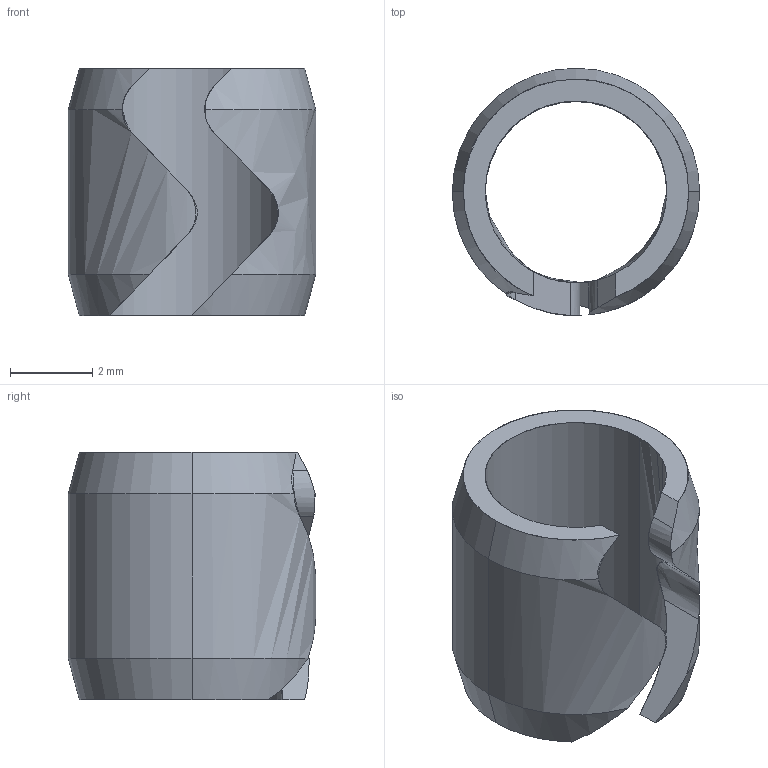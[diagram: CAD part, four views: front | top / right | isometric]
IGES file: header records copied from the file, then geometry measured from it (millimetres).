
Global section: file name: E:\UnigraphicsGraphicData\MISUMI_PRESS-PARTS\IGES\3d_swa6_00406_r00.igs; native system: NX V5.0; preprocessor: UGS NX IGES V5.0; author: MISUMI; date: 20110105.163251; units: millimetre
Bounding box: 6 x 6 x 6 mm (x, y, z)
Surface area: 197 mm2 (no closed solid volume)
Topology: 0 solids, 0 shells, 24 faces, 147 edges, 147 vertices
Faces by surface type: bspline 24
